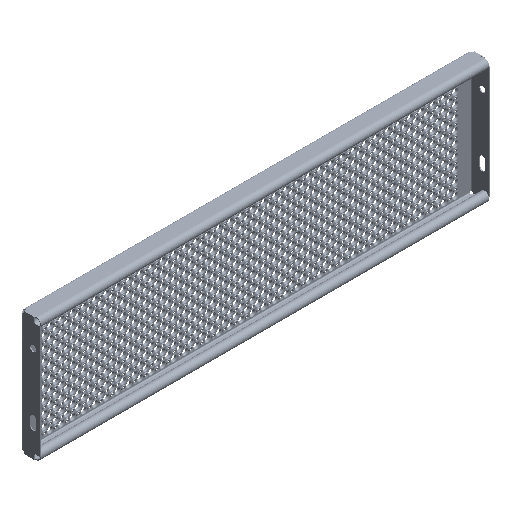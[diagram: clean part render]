
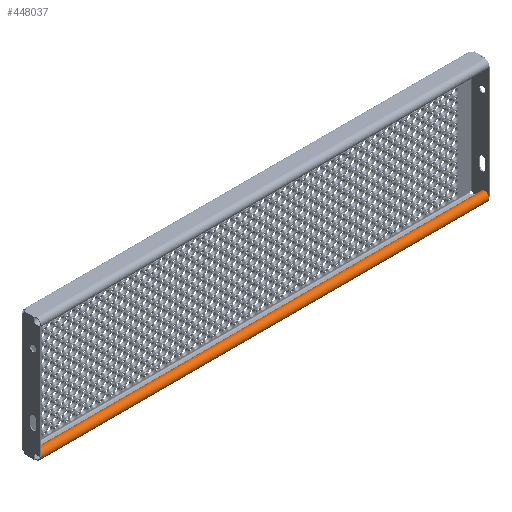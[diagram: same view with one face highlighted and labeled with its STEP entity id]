
A CAD part, isometric view. The second image highlights one B-rep face of the part: STEP entity #448037.
In plain terms, the highlighted cylindrical face has radius 10 mm (diameter 20 mm), a partial arc.
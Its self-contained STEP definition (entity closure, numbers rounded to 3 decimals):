
#10305 = AXIS2_PLACEMENT_3D ( 'NONE', #308102, #353783, #480113 ) ;
#31186 = CIRCLE ( 'NONE', #315665, 10. ) ;
#37702 = VECTOR ( 'NONE', #251436, 1000. ) ;
#55803 = DIRECTION ( 'NONE',  ( 1., 0., 0. ) ) ;
#62850 = CARTESIAN_POINT ( 'NONE',  ( -497.99, -24.337, -133.928 ) ) ;
#121644 = ORIENTED_EDGE ( 'NONE', *, *, #156770, .F. ) ;
#128739 = CARTESIAN_POINT ( 'NONE',  ( 497.99, -31.998, -137.5 ) ) ;
#129366 = LINE ( 'NONE', #215794, #37702 ) ;
#139373 = EDGE_CURVE ( 'NONE', #263057, #464558, #400175, .T. ) ;
#156770 = EDGE_CURVE ( 'NONE', #464558, #434670, #129366, .T. ) ;
#168011 = CARTESIAN_POINT ( 'NONE',  ( -497.99, -31.998, -127.5 ) ) ;
#178054 = DIRECTION ( 'NONE',  ( 0., 1., 0. ) ) ;
#178938 = DIRECTION ( 'NONE',  ( 0., 1., 0. ) ) ;
#180011 = ORIENTED_EDGE ( 'NONE', *, *, #277036, .F. ) ;
#211039 = CARTESIAN_POINT ( 'NONE',  ( 497.99, -24.337, -133.928 ) ) ;
#215794 = CARTESIAN_POINT ( 'NONE',  ( 497.99, -31.998, -137.5 ) ) ;
#219246 = EDGE_CURVE ( 'NONE', #434670, #497776, #31186, .T. ) ;
#251436 = DIRECTION ( 'NONE',  ( -1., 0., 0. ) ) ;
#263057 = VERTEX_POINT ( 'NONE', #299482 ) ;
#277036 = EDGE_CURVE ( 'NONE', #497776, #263057, #434999, .T. ) ;
#279007 = ORIENTED_EDGE ( 'NONE', *, *, #219246, .F. ) ;
#282205 = VECTOR ( 'NONE', #55803, 1000. ) ;
#299482 = CARTESIAN_POINT ( 'NONE',  ( 497.99, -24.337, -133.928 ) ) ;
#308102 = CARTESIAN_POINT ( 'NONE',  ( 497.99, -31.998, -127.5 ) ) ;
#315665 = AXIS2_PLACEMENT_3D ( 'NONE', #168011, #323326, #178054 ) ;
#323326 = DIRECTION ( 'NONE',  ( -1., 0., 0. ) ) ;
#335255 = AXIS2_PLACEMENT_3D ( 'NONE', #377354, #374828, #178938 ) ;
#346291 = FACE_OUTER_BOUND ( 'NONE', #379233, .T. ) ;
#353783 = DIRECTION ( 'NONE',  ( 1., 0., 0. ) ) ;
#374828 = DIRECTION ( 'NONE',  ( 1., 0., 0. ) ) ;
#377354 = CARTESIAN_POINT ( 'NONE',  ( 497.99, -31.998, -127.5 ) ) ;
#379233 = EDGE_LOOP ( 'NONE', ( #121644, #388036, #180011, #279007 ) ) ;
#388036 = ORIENTED_EDGE ( 'NONE', *, *, #139373, .F. ) ;
#400175 = CIRCLE ( 'NONE', #335255, 10. ) ;
#434670 = VERTEX_POINT ( 'NONE', #483315 ) ;
#434999 = LINE ( 'NONE', #211039, #282205 ) ;
#448037 = ADVANCED_FACE ( 'NONE', ( #346291 ), #501348, .T. ) ;
#464558 = VERTEX_POINT ( 'NONE', #128739 ) ;
#480113 = DIRECTION ( 'NONE',  ( 0., 0.766, -0.643 ) ) ;
#483315 = CARTESIAN_POINT ( 'NONE',  ( -497.99, -31.998, -137.5 ) ) ;
#497776 = VERTEX_POINT ( 'NONE', #62850 ) ;
#501348 = CYLINDRICAL_SURFACE ( 'NONE', #10305, 10. ) ;
